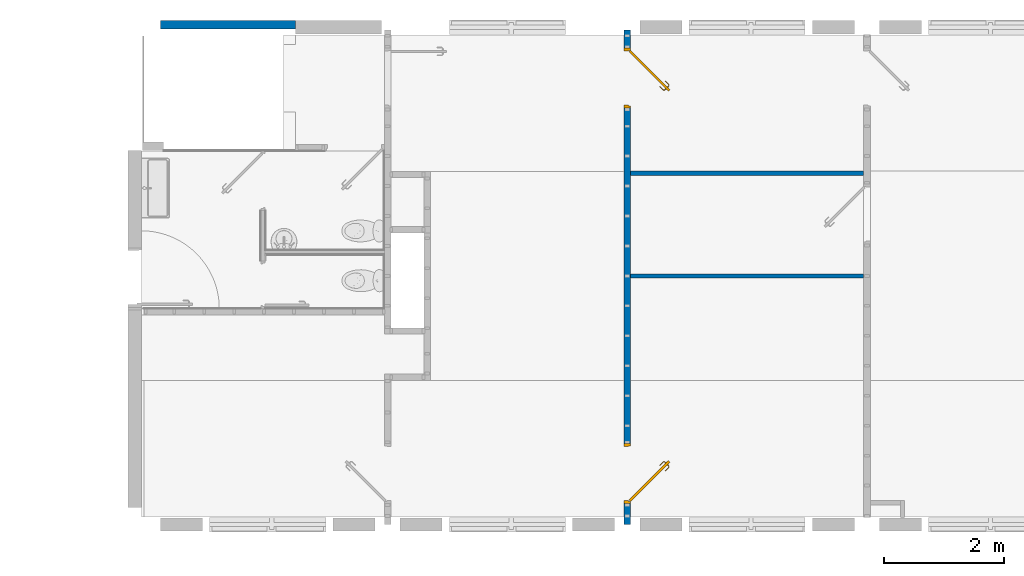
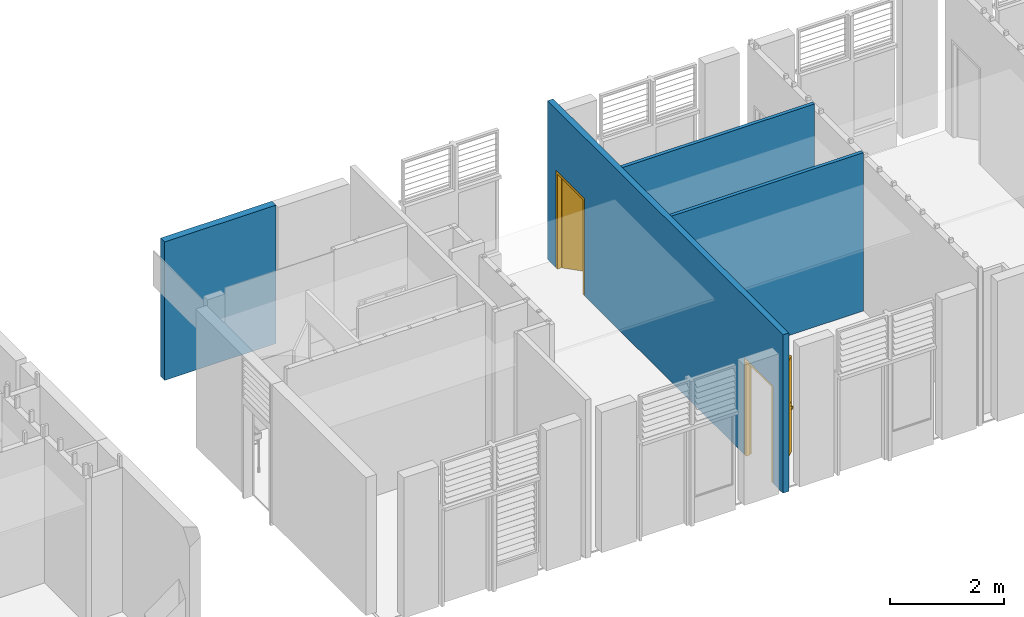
# One storey, part 10 of 20: 4 walls, 2 doors, 2 openings.
"""IFC2X3 building model written with IfcOpenShell, lengths in metres."""

from ifc_helpers import new_model, entity, si_unit, converted_unit, derived_unit, direction, frame, frame_2d, origin, place, context, subcontext, project, spatial, rectangle, extrude, faceted_brep, source, transform, mapped, material, layer, layer_set, layer_usage, type_object, type_shapes, element, fill, save


model = new_model("IFC2X3")

# Units and contexts
model_context = context("Model", 3, precision=1e-05, world=origin(), true_north=direction((6.12303176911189e-17, 1.0)))
body_context = subcontext(model_context, "Body", "Model", "MODEL_VIEW")
ifc_project = project(units=[si_unit("LENGTHUNIT", "METRE"), si_unit("AREAUNIT", "SQUARE_METRE"), si_unit("VOLUMEUNIT", "CUBIC_METRE"), converted_unit("PLANEANGLEUNIT", "DEGREE", entity("IfcRatioMeasure", 0.0174532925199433), si_unit("PLANEANGLEUNIT", "RADIAN"), dimensions=[0, 0, 0, 0, 0, 0, 0]), si_unit("MASSUNIT", "GRAM", prefix="KILO"), derived_unit("MASSDENSITYUNIT", [(si_unit("MASSUNIT", "GRAM", prefix="KILO"), 1), (si_unit("LENGTHUNIT", "METRE"), -3)]), si_unit("TIMEUNIT", "SECOND"), si_unit("FREQUENCYUNIT", "HERTZ"), si_unit("THERMODYNAMICTEMPERATUREUNIT", "DEGREE_CELSIUS"), derived_unit("THERMALTRANSMITTANCEUNIT", [(si_unit("MASSUNIT", "GRAM", prefix="KILO"), 1), (si_unit("THERMODYNAMICTEMPERATUREUNIT", "KELVIN"), -1), (si_unit("TIMEUNIT", "SECOND"), -3)]), derived_unit("VOLUMETRICFLOWRATEUNIT", [(si_unit("LENGTHUNIT", "METRE"), 3), (si_unit("TIMEUNIT", "SECOND"), -1)]), si_unit("ELECTRICCURRENTUNIT", "AMPERE"), si_unit("ELECTRICVOLTAGEUNIT", "VOLT"), si_unit("POWERUNIT", "WATT"), si_unit("FORCEUNIT", "NEWTON", prefix="KILO"), si_unit("ILLUMINANCEUNIT", "LUX"), si_unit("LUMINOUSFLUXUNIT", "LUMEN"), si_unit("LUMINOUSINTENSITYUNIT", "CANDELA"), derived_unit("USERDEFINED", [(si_unit("MASSUNIT", "GRAM", prefix="KILO"), -1), (si_unit("LENGTHUNIT", "METRE"), -2), (si_unit("TIMEUNIT", "SECOND"), 3), (si_unit("LUMINOUSFLUXUNIT", "LUMEN"), 1)]), derived_unit("LINEARVELOCITYUNIT", [(si_unit("LENGTHUNIT", "METRE"), 1), (si_unit("TIMEUNIT", "SECOND"), -1)]), si_unit("PRESSUREUNIT", "PASCAL"), derived_unit("USERDEFINED", [(si_unit("LENGTHUNIT", "METRE"), -2), (si_unit("MASSUNIT", "GRAM", prefix="KILO"), 1), (si_unit("TIMEUNIT", "SECOND"), -2)])], contexts=[model_context])

# Site, building, storey
site_placement = place(None, origin())
site = spatial("IfcSite", under=ifc_project, at=site_placement, Name="Surface", CompositionType="ELEMENT")
building_placement = place(site_placement, origin())
building = spatial("IfcBuilding", under=site, at=building_placement, Name="ExPREF", CompositionType="ELEMENT")
storey_placement = place(building_placement, frame((0.0, 0.0, 4.27)))
storey = spatial("IfcBuildingStorey", under=building, at=storey_placement, Name="R+1", CompositionType="ELEMENT", Elevation=4.27)

# Wall, openings, doors
ifc_material_1 = material(Name="AA-mur cloison finition")
ifc_layer_1 = layer(ifc_material_1, 0.018)
ifc_material_2 = material(Name="AA-isolant plancher")
ifc_layer_2 = layer(ifc_material_2, 0.08)
ifc_layer_3 = layer(ifc_material_1, 0.018)
ifc_layer_set_1 = layer_set([ifc_layer_1, ifc_layer_2, ifc_layer_3], Name="Mur de base:A-cloison CP 11.6 cm")
ifc_layer_usage_1 = layer_usage(ifc_layer_set_1, "AXIS2", "NEGATIVE", 0.058)
wall_type_1 = type_object("IfcWallType", Name="Mur de base:A-cloison CP 11.6 cm", PredefinedType="STANDARD", material=ifc_layer_set_1)
wall_1_placement = place(storey_placement, frame((53.4897436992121, -185.106488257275, 0.0), z_axis=(0.0, 0.0, 1.0), x_axis=(0.0, -1.0, 0.0)))
wall_1 = element("IfcWallStandardCase", 1, at=wall_1_placement, inside=storey, type_object=wall_type_1, material=ifc_layer_usage_1, Name="Mur de base:A-cloison CP 11.6 cm", ObjectType="Mur de base:A-cloison CP 11.6 cm", context=body_context, shape_type="SweptSolid", body=[
    extrude(rectangle(XDim=8.25316304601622, YDim=0.116000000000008, at=frame_2d((4.12658152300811, -4.85722573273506e-17), x_axis=(-1.0, 0.0))), origin(), (0.0, 0.0, 1.0), 3.385),
])
opening_1_placement = place(wall_1_placement, frame((6.90316304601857, -0.0579999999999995, 0.0)))
opening_1 = element("IfcOpeningElement", 2, at=opening_1_placement, cuts=wall_1, Name="Porte intérieur bois:PP (0.93m x 2.04m):1", ObjectType="Opening", context=body_context, shape_type="SweptSolid", body=[
    extrude(rectangle(XDim=2.075, YDim=1.0, at=frame_2d((1.0375, 0.5), x_axis=(1.0, 0.0))), frame((0.0, 0.0, 0.0), z_axis=(0.0, 1.0, 0.0), x_axis=(0.0, 0.0, 1.0)), (0.0, 0.0, 1.0), 0.116),
])
opening_2_placement = place(wall_1_placement, frame((0.299999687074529, -0.0580000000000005, 0.0)))
opening_2 = element("IfcOpeningElement", 3, at=opening_2_placement, cuts=wall_1, Name="Porte intérieur bois:PP (0.93m x 2.04m):1", ObjectType="Opening", context=body_context, shape_type="SweptSolid", body=[
    extrude(rectangle(XDim=2.075, YDim=1.0, at=frame_2d((1.0375, 0.5), x_axis=(1.0, 0.0))), frame((0.0, 0.0, 0.0), z_axis=(0.0, 1.0, 0.0), x_axis=(0.0, 0.0, 1.0)), (0.0, 0.0, 1.0), 0.116),
])
ifc_material_3 = material(Name="AA-Blanc satiné")
door_style_1 = type_object("IfcDoorStyle", Name="PP (0.93m x 2.04m)", ConstructionType="NOTDEFINED", OperationType="SINGLE_SWING_LEFT", ParameterTakesPrecedence=False, Sizeable=False, material=ifc_material_3)
shared_shape_1 = source(origin(), body_context, "Body", "Brep", [
    faceted_brep([(0.316565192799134, -0.584795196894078, 1.00778044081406), (0.313754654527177, -0.587605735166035, 1.007), (0.31375465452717, -0.587605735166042, 0.992999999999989), (0.316565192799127, -0.584795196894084, 0.99221955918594), (0.319429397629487, -0.581930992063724, 0.992219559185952), (0.32223993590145, -0.579120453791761, 0.993000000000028), (0.322239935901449, -0.579120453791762, 1.007), (0.319429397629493, -0.581930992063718, 1.00778044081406), (0.306340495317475, -0.563221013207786, 0.993000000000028), (0.306340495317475, -0.563221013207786, 1.007), (0.302365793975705, -0.56486738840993, 1.00778044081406), (0.302365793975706, -0.545331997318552, 1.00778044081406), (0.298315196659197, -0.543654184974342, 1.00778044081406), (0.298315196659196, -0.56654520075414, 1.00778044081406), (0.294340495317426, -0.568191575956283, 1.007), (0.294340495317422, -0.568191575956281, 0.992999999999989), (0.298315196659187, -0.566545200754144, 0.99221955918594), (0.298315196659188, -0.543654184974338, 0.99221955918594), (0.302365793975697, -0.545331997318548, 0.992219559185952), (0.302365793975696, -0.564867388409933, 0.992219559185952), (0.306340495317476, -0.546978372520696, 0.993000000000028), (0.306340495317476, -0.546978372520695, 1.007), (0.294340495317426, -0.542007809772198, 1.007), (0.294340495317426, -0.542007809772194, 0.992999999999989), (0.36471958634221, -0.488599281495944, 0.993000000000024), (0.361909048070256, -0.485788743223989, 0.992219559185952), (0.359044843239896, -0.48292453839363, 0.99221955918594), (0.356234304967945, -0.480114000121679, 0.992999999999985), (0.356234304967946, -0.480114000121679, 1.007), (0.359044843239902, -0.482924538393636, 1.00778044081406), (0.361909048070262, -0.485788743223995, 1.00778044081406), (0.364719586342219, -0.488599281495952, 1.007), (0.335530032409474, -0.517788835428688, 0.993000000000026), (0.335530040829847, -0.517788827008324, 1.007), (0.330705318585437, -0.51412826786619, 1.0078786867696), (0.322575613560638, -0.513772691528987, 1.007), (0.322575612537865, -0.513772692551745, 0.992999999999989), (0.330705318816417, -0.514128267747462, 0.992121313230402)], [[[0, 1, 2, 3, 4, 5, 6, 7]], [[6, 5, 8, 9]], [[9, 10, 7, 6]], [[10, 11, 12, 13, 0, 7]], [[13, 14, 1, 0]], [[2, 1, 14, 15]], [[15, 16, 3, 2]], [[16, 17, 18, 19, 4, 3]], [[19, 8, 5, 4]], [[9, 8, 20, 21]], [[21, 11, 10, 9]], [[12, 22, 14, 13]], [[15, 14, 22, 23]], [[23, 17, 16, 15]], [[18, 20, 8, 19]], [[24, 25, 26, 27, 28, 29, 30, 31]], [[21, 20, 32, 24, 31, 33]], [[33, 30, 34]], [[35, 34, 29]], [[21, 33, 11]], [[33, 31, 30]], [[28, 35, 29]], [[22, 12, 35]], [[35, 12, 34]], [[12, 11, 34]], [[11, 33, 34]], [[29, 34, 30]], [[22, 35, 28, 27, 36, 23]], [[36, 26, 37]], [[27, 26, 36]], [[17, 23, 36]], [[37, 32, 18]], [[20, 18, 32]], [[32, 25, 24]], [[26, 25, 37]], [[25, 32, 37]], [[17, 36, 37]], [[17, 37, 18]]]),
    faceted_brep([(0.351920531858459, -0.620150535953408, 1.00778044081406), (0.354784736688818, -0.617286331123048, 1.00778044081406), (0.357595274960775, -0.614475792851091, 1.00699999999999), (0.357595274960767, -0.614475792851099, 0.993000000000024), (0.354784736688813, -0.617286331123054, 0.992219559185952), (0.351920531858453, -0.620150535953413, 0.99221955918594), (0.349109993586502, -0.622961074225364, 0.992999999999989), (0.349109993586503, -0.622961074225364, 1.007), (0.368662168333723, -0.642513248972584, 1.007), (0.370308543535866, -0.638538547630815, 1.00778044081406), (0.3930050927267, -0.638538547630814, 1.00778044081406), (0.391327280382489, -0.634487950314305, 1.00778044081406), (0.371986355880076, -0.634487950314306, 1.00778044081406), (0.373632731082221, -0.630513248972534, 1.007), (0.373632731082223, -0.630513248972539, 0.993000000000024), (0.371986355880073, -0.634487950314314, 0.992219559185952), (0.391327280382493, -0.634487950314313, 0.992219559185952), (0.393005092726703, -0.638538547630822, 0.99221955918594), (0.370308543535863, -0.638538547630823, 0.99221955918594), (0.368662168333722, -0.642513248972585, 0.992999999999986), (0.394651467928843, -0.642513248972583, 1.007), (0.389680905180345, -0.630513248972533, 1.007), (0.38968090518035, -0.630513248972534, 0.993000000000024), (0.394651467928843, -0.642513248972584, 0.992999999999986), (0.456623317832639, -0.580541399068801, 0.992999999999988), (0.453812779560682, -0.577730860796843, 0.99221955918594), (0.450948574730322, -0.574866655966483, 0.992219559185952), (0.448138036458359, -0.57205611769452, 0.993000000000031), (0.44813803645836, -0.572056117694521, 1.007), (0.450948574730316, -0.574866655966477, 1.00778044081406), (0.453812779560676, -0.577730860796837, 1.00778044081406), (0.456623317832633, -0.580541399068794, 1.00699999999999), (0.422886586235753, -0.614278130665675, 1.007), (0.422570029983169, -0.606109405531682, 1.0078786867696), (0.418909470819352, -0.601284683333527, 1.007), (0.418909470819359, -0.601284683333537, 0.993000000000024), (0.422570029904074, -0.606109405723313, 0.992121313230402), (0.422886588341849, -0.614278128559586, 0.992999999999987)], [[[0, 1, 2, 3, 4, 5, 6, 7]], [[8, 9, 0, 7]], [[9, 10, 11, 12, 1, 0]], [[12, 13, 2, 1]], [[3, 2, 13, 14]], [[14, 15, 4, 3]], [[15, 16, 17, 18, 5, 4]], [[18, 19, 6, 5]], [[7, 6, 19, 8]], [[20, 10, 9, 8]], [[11, 21, 13, 12]], [[14, 13, 21, 22]], [[22, 16, 15, 14]], [[17, 23, 19, 18]], [[8, 19, 23, 20]], [[24, 25, 26, 27, 28, 29, 30, 31]], [[32, 30, 33]], [[31, 30, 32]], [[10, 20, 32]], [[33, 34, 11]], [[21, 11, 34]], [[34, 29, 28]], [[30, 29, 33]], [[29, 34, 33]], [[10, 32, 33]], [[10, 33, 11]], [[22, 21, 34, 28, 27, 35]], [[35, 26, 36]], [[37, 36, 25]], [[22, 35, 16]], [[35, 27, 26]], [[24, 37, 25]], [[23, 17, 37]], [[37, 17, 36]], [[17, 16, 36]], [[16, 35, 36]], [[25, 36, 26]], [[20, 23, 37, 24, 31, 32]]]),
    faceted_brep([(0.328853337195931, -0.579578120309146, 0.866003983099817), (0.335674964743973, -0.572756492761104, 0.870000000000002), (0.335674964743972, -0.572756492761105, 1.08), (0.32885333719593, -0.579578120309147, 1.08399601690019), (0.321532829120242, -0.586898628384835, 1.08535898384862), (0.314212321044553, -0.594219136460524, 1.08399601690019), (0.307390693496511, -0.601040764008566, 1.08), (0.307390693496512, -0.601040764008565, 0.870000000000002), (0.314212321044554, -0.594219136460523, 0.866003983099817), (0.321532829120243, -0.586898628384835, 0.86464101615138), (0.325317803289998, -0.576042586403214, 1.08399601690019), (0.33213943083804, -0.569220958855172, 1.08), (0.332139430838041, -0.569220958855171, 0.870000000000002), (0.325317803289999, -0.576042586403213, 0.866003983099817), (0.31799729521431, -0.583363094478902, 0.86464101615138), (0.310676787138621, -0.59068360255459, 0.866003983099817), (0.303855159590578, -0.597505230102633, 0.870000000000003), (0.303855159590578, -0.597505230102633, 1.08), (0.31067678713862, -0.590683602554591, 1.08399601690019), (0.317997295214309, -0.583363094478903, 1.08535898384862)], [[[0, 1, 2, 3, 4, 5, 6, 7, 8, 9]], [[10, 11, 12, 13, 14, 15, 16, 17, 18, 19]], [[11, 10, 3, 2]], [[3, 10, 19, 4]], [[19, 18, 5, 4]], [[18, 17, 6, 5]], [[7, 6, 17, 16]], [[16, 15, 8, 7]], [[8, 15, 14, 9]], [[14, 13, 0, 9]], [[13, 12, 1, 0]], [[2, 1, 12, 11]]]),
    faceted_brep([(0.360673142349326, -0.61139792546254, 0.866003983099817), (0.367494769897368, -0.604576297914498, 0.870000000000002), (0.367494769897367, -0.604576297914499, 1.08), (0.360673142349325, -0.611397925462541, 1.08399601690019), (0.353352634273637, -0.61871843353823, 1.08535898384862), (0.346032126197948, -0.626038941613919, 1.08399601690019), (0.339210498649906, -0.632860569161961, 1.08), (0.339210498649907, -0.63286056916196, 0.870000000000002), (0.346032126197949, -0.626038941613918, 0.866003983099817), (0.353352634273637, -0.618718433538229, 0.86464101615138), (0.357137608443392, -0.607862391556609, 1.08399601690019), (0.363959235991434, -0.601040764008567, 1.08), (0.363959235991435, -0.601040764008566, 0.870000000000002), (0.357137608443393, -0.607862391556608, 0.866003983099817), (0.349817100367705, -0.615182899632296, 0.86464101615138), (0.342496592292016, -0.622503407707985, 0.866003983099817), (0.335674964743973, -0.629325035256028, 0.870000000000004), (0.335674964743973, -0.629325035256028, 1.08), (0.342496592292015, -0.622503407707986, 1.08399601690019), (0.349817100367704, -0.615182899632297, 1.08535898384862)], [[[0, 1, 2, 3, 4, 5, 6, 7, 8, 9]], [[10, 11, 12, 13, 14, 15, 16, 17, 18, 19]], [[16, 15, 8, 7]], [[8, 15, 14, 9]], [[14, 13, 0, 9]], [[13, 12, 1, 0]], [[2, 1, 12, 11]], [[11, 10, 3, 2]], [[3, 10, 19, 4]], [[19, 18, 5, 4]], [[18, 17, 6, 5]], [[7, 6, 17, 16]]]),
    faceted_brep([(0.279106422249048, -0.629325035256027, 2.04), (0.936715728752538, 0.0282842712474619, 2.04), (0.936715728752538, 0.0282842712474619, 0.0), (0.279106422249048, -0.629325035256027, 0.0), (0.30739069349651, -0.657609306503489, 2.04), (0.30739069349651, -0.657609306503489, 0.0), (0.965, 0.0, 0.0), (0.965, 0.0, 2.04)], [[[0, 1, 2, 3]], [[4, 5, 6, 7]], [[1, 0, 4, 7]], [[2, 1, 7, 6]], [[3, 2, 6, 5]], [[0, 3, 5, 4]]]),
    faceted_brep([(0.0, 0.0, 0.0), (0.0, 0.116000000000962, 0.0), (0.0499999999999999, 0.116000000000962, 0.0), (0.0499999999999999, 0.0400000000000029, 0.0), (0.0349999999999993, 0.0400000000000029, 0.0), (0.0349999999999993, 0.0, 0.0), (0.0, 0.0, 2.07500000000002), (0.0, 0.116000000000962, 2.07500000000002), (1.0, 0.116000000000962, 2.07500000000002), (1.0, 0.116000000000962, 0.0), (0.95, 0.116000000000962, 0.0), (0.95, 0.116000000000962, 2.025), (0.0500000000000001, 0.116000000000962, 2.025), (0.05, 0.0400000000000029, 2.025), (0.95, 0.0400000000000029, 2.025), (0.95, 0.0400000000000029, 0.0), (0.965, 0.0400000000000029, 0.0), (0.965, 0.0400000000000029, 2.04), (0.0349999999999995, 0.0400000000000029, 2.04), (0.0349999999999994, 0.0, 2.04), (0.965, 0.0, 2.04), (0.965, 0.0, 0.0), (1.0, 0.0, 0.0), (1.0, 0.0, 2.07500000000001)], [[[0, 1, 2, 3, 4, 5]], [[1, 0, 6, 7]], [[2, 1, 7, 8, 9, 10, 11, 12]], [[3, 2, 12, 13]], [[4, 3, 13, 14, 15, 16, 17, 18]], [[5, 4, 18, 19]], [[0, 5, 19, 20, 21, 22, 23, 6]], [[8, 23, 22, 9]], [[22, 21, 16, 15, 10, 9]], [[14, 11, 10, 15]], [[20, 17, 16, 21]], [[7, 6, 23, 8]], [[13, 12, 11, 14]], [[19, 18, 17, 20]]]),
])
type_shapes(door_style_1, [shared_shape_1])
door_1_placement = place(opening_2_placement, frame((1.0, 0.116, 0.0), z_axis=(0.0, 0.0, 1.0), x_axis=(-1.0, 0.0, 0.0)))
door_1 = element("IfcDoor", 4, at=door_1_placement, inside=storey, type_object=door_style_1, material=ifc_material_3, Name="Porte intérieur bois:PP (0.93m x 2.04m)", ObjectType="PP (0.93m x 2.04m)", OverallHeight=2.075, OverallWidth=1.00000000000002, context=body_context, shape_type="MappedRepresentation", body=[
    mapped(shared_shape_1, transform((0.0, 0.0, 0.0), scale=1.0)),
])
fill(opening_2, door_1)
door_style_2 = type_object("IfcDoorStyle", Name="PP (0.93m x 2.04m)", ConstructionType="NOTDEFINED", OperationType="SINGLE_SWING_RIGHT", ParameterTakesPrecedence=False, Sizeable=False, material=ifc_material_3)
shared_shape_2 = source(origin(), body_context, "Body", "Brep", [
    faceted_brep([(0.750570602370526, -0.581930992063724, 0.992219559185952), (0.753434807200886, -0.584795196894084, 0.99221955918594), (0.756245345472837, -0.587605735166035, 0.992999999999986), (0.756245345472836, -0.587605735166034, 1.007), (0.75343480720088, -0.584795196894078, 1.00778044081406), (0.75057060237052, -0.581930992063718, 1.00778044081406), (0.747760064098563, -0.579120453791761, 1.007), (0.747760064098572, -0.57912045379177, 0.993000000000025), (0.763659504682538, -0.563221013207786, 1.007), (0.763659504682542, -0.563221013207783, 0.993000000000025), (0.767634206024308, -0.56486738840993, 1.00778044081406), (0.771684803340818, -0.56654520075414, 1.00778044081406), (0.771684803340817, -0.543654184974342, 1.00778044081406), (0.767634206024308, -0.545331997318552, 1.00778044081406), (0.775659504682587, -0.568191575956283, 1.007), (0.775659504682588, -0.568191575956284, 0.992999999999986), (0.771684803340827, -0.566545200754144, 0.99221955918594), (0.767634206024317, -0.564867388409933, 0.992219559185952), (0.767634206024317, -0.545331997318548, 0.992219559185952), (0.771684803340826, -0.543654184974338, 0.99221955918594), (0.763659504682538, -0.546978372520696, 1.007), (0.763659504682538, -0.546978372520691, 0.993000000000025), (0.775659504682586, -0.542007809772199, 1.007), (0.775659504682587, -0.542007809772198, 0.992999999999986), (0.708090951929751, -0.485788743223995, 1.00778044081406), (0.710955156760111, -0.482924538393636, 1.00778044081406), (0.713765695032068, -0.480114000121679, 1.007), (0.713765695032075, -0.480114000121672, 0.992999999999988), (0.710955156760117, -0.48292453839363, 0.99221955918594), (0.708090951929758, -0.485788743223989, 0.992219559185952), (0.705280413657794, -0.488599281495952, 0.993000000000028), (0.705280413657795, -0.488599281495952, 1.007), (0.734469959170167, -0.517788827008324, 1.007), (0.734469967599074, -0.517788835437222, 0.993000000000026), (0.739294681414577, -0.51412826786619, 1.0078786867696), (0.747424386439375, -0.513772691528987, 1.007), (0.747424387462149, -0.513772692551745, 0.992999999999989), (0.739294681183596, -0.514128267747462, 0.992121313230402)], [[[0, 1, 2, 3, 4, 5, 6, 7]], [[8, 9, 7, 6]], [[5, 10, 8, 6]], [[5, 4, 11, 12, 13, 10]], [[3, 14, 11, 4]], [[14, 3, 2, 15]], [[2, 1, 16, 15]], [[1, 0, 17, 18, 19, 16]], [[0, 7, 9, 17]], [[20, 21, 9, 8]], [[8, 10, 13, 20]], [[14, 22, 12, 11]], [[23, 22, 14, 15]], [[15, 16, 19, 23]], [[17, 9, 21, 18]], [[24, 25, 26, 27, 28, 29, 30, 31]], [[21, 20, 32, 31, 30, 33]], [[34, 24, 32]], [[25, 34, 35]], [[13, 32, 20]], [[24, 31, 32]], [[25, 35, 26]], [[35, 12, 22]], [[34, 12, 35]], [[34, 13, 12]], [[34, 32, 13]], [[24, 34, 25]], [[22, 23, 36, 27, 26, 35]], [[37, 28, 36]], [[36, 28, 27]], [[36, 23, 19]], [[18, 33, 37]], [[33, 18, 21]], [[30, 29, 33]], [[37, 29, 28]], [[37, 33, 29]], [[37, 36, 19]], [[18, 37, 19]]]),
    faceted_brep([(0.715215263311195, -0.617286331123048, 1.00778044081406), (0.718079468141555, -0.620150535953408, 1.00778044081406), (0.720890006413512, -0.622961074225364, 1.00699999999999), (0.720890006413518, -0.622961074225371, 0.992999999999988), (0.718079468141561, -0.620150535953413, 0.99221955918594), (0.715215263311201, -0.617286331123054, 0.992219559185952), (0.712404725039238, -0.614475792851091, 0.993000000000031), (0.712404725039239, -0.614475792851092, 1.007), (0.699691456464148, -0.638538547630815, 1.00778044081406), (0.701337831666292, -0.642513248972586, 1.007), (0.698013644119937, -0.634487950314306, 1.00778044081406), (0.678672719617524, -0.634487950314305, 1.00778044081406), (0.676994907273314, -0.638538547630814, 1.00778044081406), (0.696367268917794, -0.630513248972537, 1.007), (0.696367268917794, -0.630513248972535, 0.993000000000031), (0.698013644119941, -0.634487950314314, 0.992219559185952), (0.699691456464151, -0.638538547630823, 0.99221955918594), (0.676994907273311, -0.638538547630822, 0.99221955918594), (0.678672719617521, -0.634487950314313, 0.992219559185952), (0.701337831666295, -0.642513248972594, 0.992999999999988), (0.67534853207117, -0.642513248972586, 1.007), (0.680319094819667, -0.630513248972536, 1.007), (0.680319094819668, -0.630513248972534, 0.993000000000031), (0.675348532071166, -0.642513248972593, 0.992999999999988), (0.613376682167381, -0.580541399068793, 1.007), (0.616187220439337, -0.577730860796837, 1.00778044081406), (0.619051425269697, -0.574866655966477, 1.00778044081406), (0.621861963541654, -0.57205611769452, 1.00699999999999), (0.621861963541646, -0.572056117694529, 0.993000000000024), (0.619051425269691, -0.574866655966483, 0.992219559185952), (0.616187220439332, -0.577730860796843, 0.99221955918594), (0.613376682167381, -0.580541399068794, 0.992999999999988), (0.647429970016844, -0.606109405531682, 1.0078786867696), (0.647113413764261, -0.614278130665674, 1.007), (0.651090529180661, -0.601284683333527, 1.007), (0.651090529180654, -0.601284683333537, 0.993000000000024), (0.64742997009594, -0.606109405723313, 0.992121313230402), (0.64711341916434, -0.61427813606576, 0.992999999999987)], [[[0, 1, 2, 3, 4, 5, 6, 7]], [[2, 1, 8, 9]], [[1, 0, 10, 11, 12, 8]], [[0, 7, 13, 10]], [[14, 13, 7, 6]], [[5, 15, 14, 6]], [[5, 4, 16, 17, 18, 15]], [[3, 19, 16, 4]], [[9, 19, 3, 2]], [[9, 8, 12, 20]], [[10, 13, 21, 11]], [[22, 21, 13, 14]], [[14, 15, 18, 22]], [[16, 19, 23, 17]], [[20, 23, 19, 9]], [[24, 25, 26, 27, 28, 29, 30, 31]], [[32, 25, 33]], [[33, 25, 24]], [[33, 20, 12]], [[11, 34, 32]], [[34, 11, 21]], [[27, 26, 34]], [[32, 26, 25]], [[32, 34, 26]], [[32, 33, 12]], [[11, 32, 12]], [[21, 22, 35, 28, 27, 34]], [[36, 29, 35]], [[30, 36, 37]], [[18, 35, 22]], [[29, 28, 35]], [[30, 37, 31]], [[37, 17, 23]], [[36, 17, 37]], [[36, 18, 17]], [[36, 35, 18]], [[29, 36, 30]], [[23, 20, 33, 24, 31, 37]]]),
    faceted_brep([(0.762609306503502, -0.601040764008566, 0.870000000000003), (0.762609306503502, -0.601040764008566, 1.08), (0.75578767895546, -0.594219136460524, 1.08399601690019), (0.748467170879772, -0.586898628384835, 1.08535898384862), (0.741146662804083, -0.579578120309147, 1.08399601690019), (0.734325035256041, -0.572756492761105, 1.08), (0.73432503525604, -0.572756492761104, 0.870000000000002), (0.741146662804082, -0.579578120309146, 0.866003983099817), (0.748467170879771, -0.586898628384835, 0.86464101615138), (0.755787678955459, -0.594219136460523, 0.866003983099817), (0.752002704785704, -0.583363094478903, 1.08535898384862), (0.759323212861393, -0.590683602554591, 1.08399601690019), (0.766144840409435, -0.597505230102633, 1.08), (0.766144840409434, -0.597505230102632, 0.870000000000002), (0.759323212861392, -0.59068360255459, 0.866003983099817), (0.752002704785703, -0.583363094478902, 0.86464101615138), (0.744682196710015, -0.576042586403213, 0.866003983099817), (0.737860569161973, -0.569220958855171, 0.870000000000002), (0.737860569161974, -0.569220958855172, 1.08), (0.744682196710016, -0.576042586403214, 1.08399601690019)], [[[0, 1, 2, 3, 4, 5, 6, 7, 8, 9]], [[10, 11, 12, 13, 14, 15, 16, 17, 18, 19]], [[4, 19, 18, 5]], [[3, 10, 19, 4]], [[2, 11, 10, 3]], [[2, 1, 12, 11]], [[13, 12, 1, 0]], [[9, 14, 13, 0]], [[8, 15, 14, 9]], [[7, 16, 15, 8]], [[7, 6, 17, 16]], [[17, 6, 5, 18]]]),
    faceted_brep([(0.730789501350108, -0.632860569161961, 0.870000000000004), (0.730789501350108, -0.632860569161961, 1.08), (0.723967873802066, -0.626038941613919, 1.08399601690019), (0.716647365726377, -0.61871843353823, 1.08535898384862), (0.709326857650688, -0.611397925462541, 1.08399601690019), (0.702505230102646, -0.604576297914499, 1.08), (0.702505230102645, -0.604576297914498, 0.870000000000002), (0.709326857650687, -0.61139792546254, 0.866003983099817), (0.716647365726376, -0.618718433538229, 0.86464101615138), (0.723967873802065, -0.626038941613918, 0.866003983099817), (0.73432503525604, -0.629325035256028, 1.08), (0.73432503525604, -0.629325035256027, 0.870000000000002), (0.727503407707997, -0.622503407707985, 0.866003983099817), (0.720182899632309, -0.615182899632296, 0.86464101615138), (0.71286239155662, -0.607862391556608, 0.866003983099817), (0.706040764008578, -0.601040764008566, 0.870000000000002), (0.706040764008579, -0.601040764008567, 1.08), (0.712862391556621, -0.607862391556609, 1.08399601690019), (0.72018289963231, -0.615182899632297, 1.08535898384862), (0.727503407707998, -0.622503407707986, 1.08399601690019)], [[[0, 1, 2, 3, 4, 5, 6, 7, 8, 9]], [[10, 11, 12, 13, 14, 15, 16, 17, 18, 19]], [[9, 12, 11, 0]], [[8, 13, 12, 9]], [[7, 14, 13, 8]], [[7, 6, 15, 14]], [[15, 6, 5, 16]], [[4, 17, 16, 5]], [[3, 18, 17, 4]], [[2, 19, 18, 3]], [[2, 1, 10, 19]], [[11, 10, 1, 0]]]),
    faceted_brep([(0.790893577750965, -0.629325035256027, 2.04), (0.790893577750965, -0.629325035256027, 0.0), (0.133284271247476, 0.0282842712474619, 0.0), (0.133284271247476, 0.0282842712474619, 2.04), (0.762609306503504, -0.657609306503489, 2.04), (0.105000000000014, 0.0, 2.04), (0.105000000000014, 0.0, 0.0), (0.762609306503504, -0.657609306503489, 0.0)], [[[0, 1, 2, 3]], [[4, 5, 6, 7]], [[3, 5, 4, 0]], [[2, 6, 5, 3]], [[1, 7, 6, 2]], [[0, 4, 7, 1]]]),
    faceted_brep([(1.07000000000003, 0.0, 0.0), (1.03500000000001, 0.0, 0.0), (1.03500000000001, 0.0400000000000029, 0.0), (1.02000000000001, 0.0400000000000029, 0.0), (1.02000000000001, 0.116000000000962, 0.0), (1.07000000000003, 0.116000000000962, 0.0), (1.07000000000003, 0.116000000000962, 2.07500000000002), (1.07000000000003, 0.0, 2.07500000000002), (1.02000000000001, 0.116000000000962, 2.025), (0.120000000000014, 0.116000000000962, 2.025), (0.120000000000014, 0.116000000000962, 0.0), (0.0699999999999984, 0.116000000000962, 0.0), (0.0699999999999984, 0.116000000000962, 2.07500000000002), (1.02000000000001, 0.0400000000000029, 2.025), (1.03500000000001, 0.0400000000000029, 2.04), (0.105000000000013, 0.0400000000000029, 2.04), (0.105000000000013, 0.0400000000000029, 0.0), (0.120000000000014, 0.0400000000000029, 0.0), (0.120000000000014, 0.0400000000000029, 2.025), (1.03500000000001, 0.0, 2.04), (0.0699999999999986, 0.0, 2.07500000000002), (0.0699999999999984, 0.0, 0.0), (0.105000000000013, 0.0, 0.0), (0.105000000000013, 0.0, 2.04)], [[[0, 1, 2, 3, 4, 5]], [[5, 6, 7, 0]], [[4, 8, 9, 10, 11, 12, 6, 5]], [[3, 13, 8, 4]], [[2, 14, 15, 16, 17, 18, 13, 3]], [[1, 19, 14, 2]], [[0, 7, 20, 21, 22, 23, 19, 1]], [[12, 11, 21, 20]], [[21, 11, 10, 17, 16, 22]], [[18, 17, 10, 9]], [[23, 22, 16, 15]], [[6, 12, 20, 7]], [[13, 18, 9, 8]], [[19, 23, 15, 14]]]),
])
type_shapes(door_style_2, [shared_shape_2])
door_2_placement = place(opening_1_placement, frame((1.06999999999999, 0.115999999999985, 0.0), z_axis=(0.0, 0.0, 1.0), x_axis=(-1.0, 0.0, 0.0)))
door_2 = element("IfcDoor", 5, at=door_2_placement, inside=storey, type_object=door_style_2, material=ifc_material_3, Name="Porte intérieur bois:PP (0.93m x 2.04m)", ObjectType="PP (0.93m x 2.04m)", OverallHeight=2.075, OverallWidth=1.00000000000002, context=body_context, shape_type="MappedRepresentation", body=[
    mapped(shared_shape_2, transform((0.0, 0.0, 0.0), scale=1.0)),
])
fill(opening_1, door_2)

# Walls
ifc_material_4 = material(Name="AA-fermacell peint")
ifc_layer_4 = layer(ifc_material_4, 0.0125)
ifc_layer_5 = layer(ifc_material_2, 0.045)
ifc_layer_6 = layer(ifc_material_4, 0.0125)
ifc_layer_set_2 = layer_set([ifc_layer_4, ifc_layer_5, ifc_layer_6], Name="Mur de base:Générique - Int. 70 mm")
ifc_layer_usage_2 = layer_usage(ifc_layer_set_2, "AXIS2", "NEGATIVE", 0.035)
wall_type_2 = type_object("IfcWallType", Name="Mur de base:Générique - Int. 70 mm", PredefinedType="STANDARD", material=ifc_layer_set_2)
wall_2_placement = place(storey_placement, frame((53.5477436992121, -187.493069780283, 0.0)))
element("IfcWallStandardCase", 6, at=wall_2_placement, inside=storey, type_object=wall_type_2, material=ifc_layer_usage_2, Name="Mur de base:Générique - Int. 70 mm", ObjectType="Mur de base:Générique - Int. 70 mm", context=body_context, shape_type="SweptSolid", body=[
    extrude(rectangle(XDim=3.88399999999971, YDim=0.0700000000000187, at=frame_2d((1.94199999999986, 0.0), x_axis=(-1.0, 0.0))), origin(), (0.0, 0.0, 1.0), 3.385),
])
ifc_layer_usage_3 = layer_usage(ifc_layer_set_2, "AXIS2", "POSITIVE", -0.035)
wall_3_placement = place(storey_placement, frame((53.5477436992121, -189.208069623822, 0.0)))
element("IfcWallStandardCase", 7, at=wall_3_placement, inside=storey, type_object=wall_type_2, material=ifc_layer_usage_3, Name="Mur de base:Générique - Int. 70 mm", ObjectType="Mur de base:Générique - Int. 70 mm", context=body_context, shape_type="SweptSolid", body=[
    extrude(rectangle(XDim=3.88399999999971, YDim=0.0700000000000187, at=frame_2d((1.94199999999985, -4.82947015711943e-15), x_axis=(-1.0, 0.0))), origin(), (0.0, 0.0, 1.0), 3.385),
])
ifc_material_5 = material(Name="AA-BTC")
ifc_layer_7 = layer(ifc_material_5, 0.14)
ifc_layer_set_3 = layer_set([ifc_layer_7], Name="Mur de base:A-mur BTC 14 cm")
ifc_layer_usage_4 = layer_usage(ifc_layer_set_3, "AXIS2", "NEGATIVE", 0.07)
wall_type_3 = type_object("IfcWallType", Name="Mur de base:A-mur BTC 14 cm", PredefinedType="STANDARD", material=ifc_layer_set_3)
wall_4_placement = place(storey_placement, frame((45.6997436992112, -185.01648794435, 0.0999999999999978)))
element("IfcWallStandardCase", 8, at=wall_4_placement, inside=storey, type_object=wall_type_3, material=ifc_layer_usage_4, Name="Mur de base:A-mur BTC 14 cm", ObjectType="Mur de base:A-mur BTC 14 cm", context=body_context, shape_type="SweptSolid", body=[
    extrude(rectangle(XDim=2.25456993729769, YDim=0.139999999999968, at=frame_2d((1.12728496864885, -7.04991620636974e-15), x_axis=(-1.0, 0.0))), origin(), (0.0, 0.0, 1.0), 2.96),
])

save(model, "model.ifc")
